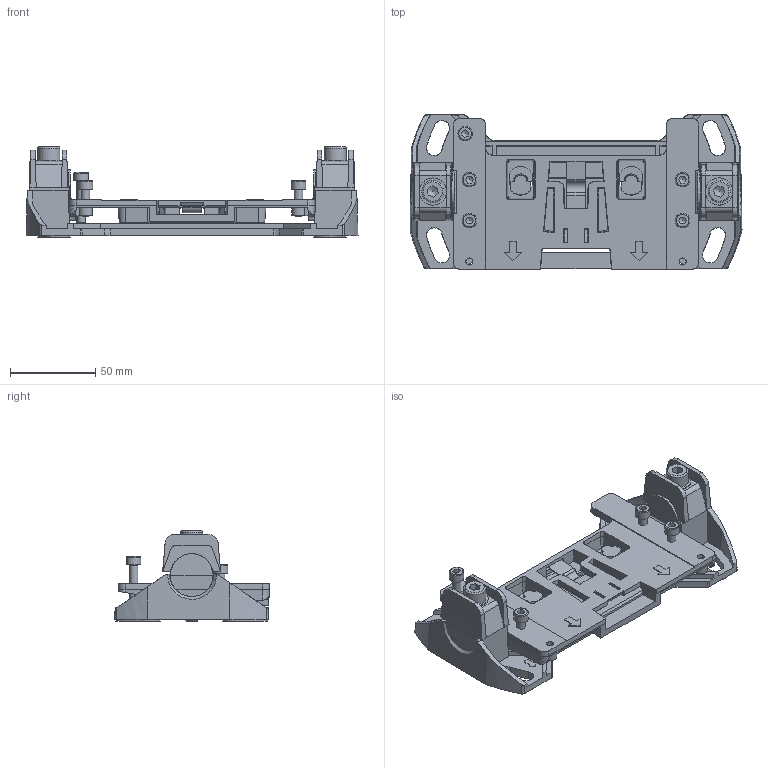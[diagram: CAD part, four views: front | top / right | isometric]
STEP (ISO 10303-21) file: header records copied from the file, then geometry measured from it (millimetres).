
FILE_DESCRIPTION((''),'2;1');
FILE_NAME('M:\INVENTORjob\Konstruktion\RS_5\Baugruppe\3d Daten für Kunden\stp\mounting system for scanner.stp','2014-11-21T11:01:24',('atull'),(''),'Autodesk Inventor 2009','Autodesk Inventor 2009','');
FILE_SCHEMA(('AUTOMOTIVE_DESIGN { 1 0 10303 214 1 1 1 1 }'));
Length unit declared in the file: millimetre
Products named in the file (8): 424670_00 RSL400 MS.iam (Lieferzustand); 50034177 Grundplatte Montagesystem für 3d Modell; 346931_01 Aufnahmeplatte RSL400; 50034176-M Klemme für 3d Modell; DIN 912 - ersetzt durch DIN EN ISO 4762 M8 x 45; 346937_01_Rastfeder; DIN EN ISO 4762 M5 x 25; DIN EN ISO 4762 M5 x 16
Assembly tree (12 placements, depth 2):
  424670_00 RSL400 MS.iam (Lieferzustand)
    50034177 Grundplatte Montagesystem für 3d Modell
    346931_01 Aufnahmeplatte RSL400
    50034176-M Klemme für 3d Modell  x2
    DIN 912 - ersetzt durch DIN EN ISO 4762 M8 x 45  x2
    346937_01_Rastfeder
    DIN EN ISO 4762 M5 x 25
    DIN EN ISO 4762 M5 x 16  x4
Bounding box: 194.75 x 90.6 x 53.04 mm (x, y, z)
Volume: 174740.3 mm3; surface area: 93703.9 mm2
Topology: 12 solids, 12 shells, 801 faces, 2136 edges, 1372 vertices
Faces by surface type: plane 315, bspline 310, cone 104, cylinder 63, torus 9
Full cylindrical faces by diameter (mm): 4.134 x6, 5 x6, 6.647 x1, 8 x2, 8.5 x5, 13 x2
Entity records: 25005 total; most frequent: CARTESIAN_POINT 8302, ORIENTED_EDGE 3674, DIRECTION 2965, EDGE_CURVE 1837, VECTOR 1259, LINE 1259, VERTEX_POINT 1201, AXIS2_PLACEMENT_3D 853
